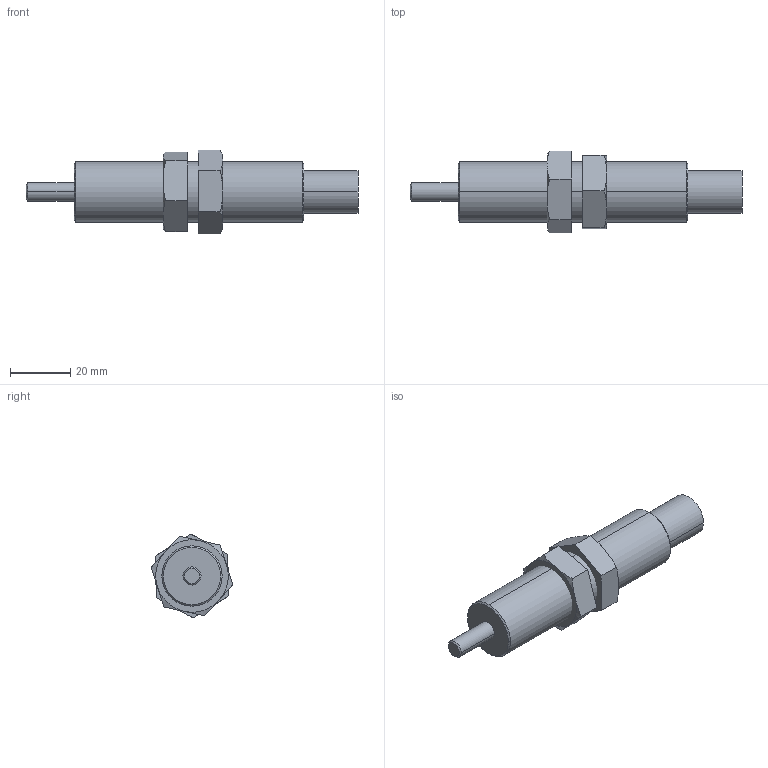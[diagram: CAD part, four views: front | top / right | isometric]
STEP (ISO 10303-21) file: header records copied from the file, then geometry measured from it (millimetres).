
FILE_DESCRIPTION (( 'STEP AP203' ), '1' );
FILE_NAME ('FSA-2016BB(CC)(CD).STEP', '2016-03-17T07:45:53', ( 'Sam Lin' ), ( '' ), 'SwSTEP 2.0', 'SolidWorks 2013', '' );
FILE_SCHEMA (( 'CONFIG_CONTROL_DESIGN' ));
Length unit declared in the file: metre
Products named in the file (3): FSA-2016BB(CC)(CD); FSA-2016BB(CC)(CD)_1; M20x1.5-8mm_1
Assembly tree (3 placements, depth 2):
  FSA-2016BB(CC)(CD)
    FSA-2016BB(CC)(CD)_1
    M20x1.5-8mm_1  x2
Bounding box: 110 x 27.11 x 27.7 mm (x, y, z)
Volume: 30746.2 mm3; surface area: 9603.6 mm2
Topology: 3 solids, 3 shells, 48 faces, 106 edges, 66 vertices
Faces by surface type: plane 20, bspline 12, cylinder 10, cone 6
Entity records: 1367 total; most frequent: CARTESIAN_POINT 368, DIRECTION 142, ORIENTED_EDGE 140, EDGE_CURVE 70, AXIS2_PLACEMENT_3D 58, VERTEX_POINT 44, EDGE_LOOP 36, FACE_OUTER_BOUND 32
